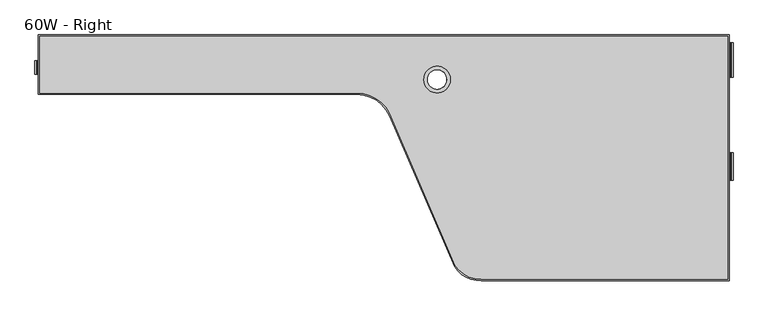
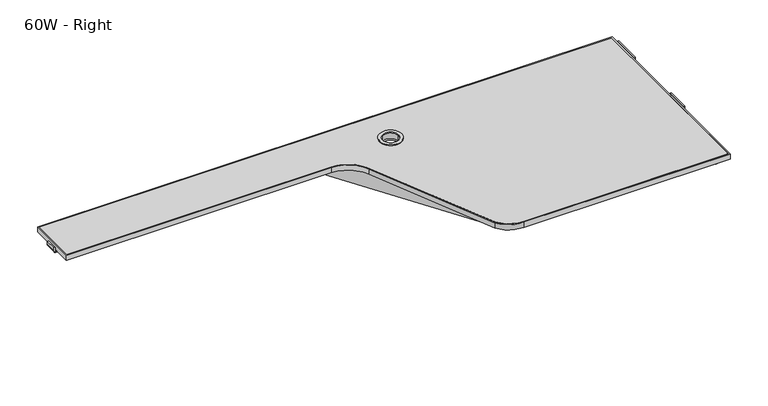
"""IFC4 building model written with IfcOpenShell, lengths in millimetres: furniture geometry, Steelcase Turnstone - Bivi - Table - Dual Top - Upper : 60W - Right."""

from ifc_helpers import new_model, si_unit, point, frame, frame_2d, origin, place, context, project, spatial, polyline, circle_curve, trimmed, segment, composite_curve, outline, extrude, faceted_brep, source, transform, mapped, element, save
from ifc_brep_helpers import plane_surface, cylinder_surface, revolved_surface, advanced_brep


def furniture_60w_right_6b6f8c7d(model_context):
    return source(origin(), model_context, "Body", "SolidModel", [
        faceted_brep([(899.5366315, 798.3804985, 984.3365257), (829.8016381, 798.3804985, 984.3365257), (829.8016381, 798.3804985, 1041.4865257), (899.5366315, 798.3804985, 1041.4865257), (1094.9332275, 353.2724638, 1039.9118156), (1094.9332275, 353.2724638, 1041.4865257), (1074.8232345, 353.2724638, 1041.4865257), (1074.8232345, 353.2724638, 1007.3133509), (1094.9332275, 353.2724638, 1007.3133509), (1094.9332275, 353.2724638, 1008.3955413), (1076.966961, 353.2724638, 1008.3955413), (1076.966961, 353.2724638, 1039.9118156)], [[[0, 1, 2, 3]], [[4, 5, 6, 7, 8, 9, 10, 11]], [[4, 11, 0]], [[11, 10, 0]], [[8, 7, 1, 0]], [[10, 9, 0]], [[9, 8, 0]], [[7, 6, 2, 1]], [[6, 5, 3, 2]], [[5, 4, 0, 3]]]),
        faceted_brep([(1598.4924133, 298.0312383, 1041.4865257), (1598.4924133, 298.0312383, 1040.1793583), (1598.4924133, 309.9526244, 1040.1793583), (1598.4924133, 309.9526244, 1031.5145776), (1598.4924133, 337.4886594, 1010.7646869), (1598.4924133, 353.2724638, 1010.7646869), (1598.4924133, 353.2724638, 1041.4865257), (1077.0049901, 353.2724638, 1041.4865257), (1094.9332275, 313.0049832, 1041.4865257), (1094.9332275, 298.0312383, 1041.4865257), (1077.0049901, 353.2724638, 1010.7646869), (1084.0323926, 337.4886594, 1010.7646869), (1094.9332275, 309.9526244, 1031.5145776), (1094.9332275, 313.0049832, 1029.2144603), (1094.9332275, 309.9526244, 1040.1793583), (1094.9332275, 298.0312383, 1040.1793583)], [[[0, 1, 2, 3, 4, 5, 6]], [[0, 6, 7, 8, 9]], [[6, 5, 10, 7]], [[5, 4, 11, 10]], [[4, 3, 12, 13, 11]], [[3, 2, 14, 12]], [[2, 1, 15, 14]], [[1, 0, 9, 15]], [[8, 13, 12, 14, 15, 9]], [[13, 8, 7, 10, 11]]]),
        extrude(outline(composite_curve([segment(polyline([(1043.0122331, 146.3611724), (1052.5780574, 146.3611724), (1052.5780574, 143.3229857), (1043.4087962, 143.3229857)]), True, "CONTINUOUS"), segment(trimmed(circle_curve(frame_2d((1043.4087962, 148.5250221)), 5.2020364), [point((1043.4087962, 143.3229857))], [point((1038.2067598, 148.5250221))], False, "CARTESIAN"), True, "CONTINUOUS"), segment(polyline([(1038.2067598, 148.5250221), (1038.2067598, 171.0287862), (1041.2445831, 171.0287862), (1041.2445831, 148.1288223)]), True, "CONTINUOUS"), segment(trimmed(circle_curve(frame_2d((1043.0122331, 148.1288223)), 1.7676499), [point((1041.2445831, 148.1288223))], [point((1043.0122331, 146.3611724))], True, "CARTESIAN"), True, "CONTINUOUS")], self_intersect=False)), frame((0.0, 731.0843589, 0.0), z_axis=(0.0, 1.0, 0.0), x_axis=(0.0, 0.0, 1.0)), (0.0, 0.0, 1.0), 28.5750242),
        extrude(outline(composite_curve([segment(polyline([(153.4, 691.0157049), (153.4, 812.4281826), (1620.25, 812.4281826), (1620.25, 294.1411651), (1094.9332275, 294.1411651)]), True, "CONTINUOUS"), segment(trimmed(circle_curve(frame_2d((1094.9332275, 360.8351796)), 66.6940145), [point((1094.9332275, 294.1411651))], [point((1039.5613504, 323.6592897))], False, "CARTESIAN"), True, "CONTINUOUS"), segment(polyline([(1039.5613504, 323.6592897), (899.5366315, 648.623779)]), True, "CONTINUOUS"), segment(trimmed(circle_curve(frame_2d((829.8016381, 612.4624834)), 78.5532215), [point((899.5366315, 648.623779))], [point((829.8016381, 691.0157049))], True, "CARTESIAN"), True, "CONTINUOUS"), segment(polyline([(829.8016381, 691.0157049), (153.4, 691.0157049)]), True, "CONTINUOUS")], self_intersect=False), holes=[composite_curve([segment(trimmed(circle_curve(frame_2d((1000.2079342, 720.0618051)), 20.4182782), [point((979.789656, 720.0618051))], [point((1020.6262125, 720.0618051))], True, "CARTESIAN"), True, "CONTINUOUS"), segment(trimmed(circle_curve(frame_2d((1000.2079342, 720.0618051)), 20.4182782), [point((1020.6262125, 720.0618051))], [point((979.789656, 720.0618051))], True, "CARTESIAN"), True, "CONTINUOUS")], self_intersect=False)]), frame((0.0, 0.0, 1041.4865257), z_axis=(0.0, 0.0, 1.0), x_axis=(1.0, 0.0, 0.0)), (0.0, 0.0, 1.0), 13.9699806),
        advanced_brep(
        [(1598.4924133, 724.9765806, 1033.5003172), (1601.5294373, 724.9765806, 1033.5003172), (1601.5294373, 724.9765806, 1036.2789253), (1603.4572718, 724.9765806, 1038.2067598), (1626.29999, 724.9765806, 1038.2067598), (1631.5020264, 724.9765806, 1043.4087962), (1631.5020264, 724.9765806, 1052.5780574), (1628.4638397, 724.9765806, 1052.5780574), (1628.4638397, 724.9765806, 1043.0122331), (1626.6961898, 724.9765806, 1041.2445831), (1603.7962259, 724.9765806, 1041.2445831), (1598.4924133, 724.9765806, 1035.9407705), (1598.4924133, 564.321009, 1033.5003172), (1601.5294373, 564.321009, 1033.5003172), (1598.4924133, 564.321009, 1035.9407705), (1603.7962259, 564.321009, 1041.2445831), (1626.6961898, 564.321009, 1041.2445831), (1628.4638397, 564.321009, 1043.0122331), (1628.4638397, 564.321009, 1052.5780574), (1631.5020264, 564.321009, 1052.5780574), (1631.5020264, 564.321009, 1043.4087962), (1626.29999, 564.321009, 1038.2067598), (1603.4572718, 564.321009, 1038.2067598), (1601.5294373, 564.321009, 1036.2789253), (1598.4924133, 505.2663324, 1033.5003172), (1601.5294373, 505.2663324, 1033.5003172), (1601.5294373, 505.2663324, 1036.2789253), (1603.4572718, 505.2663324, 1038.2067598), (1626.29999, 505.2663324, 1038.2067598), (1631.5020264, 505.2663324, 1043.4087962), (1631.5020264, 505.2663324, 1052.5780574), (1628.4638397, 505.2663324, 1052.5780574), (1628.4638397, 505.2663324, 1043.0122331), (1626.6961898, 505.2663324, 1041.2445831), (1603.7962259, 505.2663324, 1041.2445831), (1598.4924133, 505.2663324, 1035.9407705), (1598.4924133, 309.4350479, 1033.5003172), (1601.5294373, 309.4350479, 1033.5003172), (1601.5294373, 798.5617693, 1033.5003172), (1598.4924133, 798.5617693, 1033.5003172), (1598.4924133, 798.5617693, 1035.9407705), (1603.7962259, 798.5617693, 1041.2445831), (1626.6961898, 798.5617693, 1041.2445831), (1628.4638397, 798.5617693, 1043.0122331), (1628.4638397, 798.5617693, 1052.5780574), (1631.5020264, 798.5617693, 1052.5780574), (1631.5020264, 798.5617693, 1043.4087962), (1626.29999, 798.5617693, 1038.2067598), (1603.4572718, 798.5617693, 1038.2067598), (1601.5294373, 798.5617693, 1036.2789253), (1598.4924133, 309.4350479, 1026.050419), (1601.5294373, 309.4350479, 1026.050419), (1598.4924133, 330.4740531, 1010.7646869), (1601.5294373, 330.4740531, 1010.7646869), (1601.5294373, 794.9607992, 1010.7646869), (1598.4924133, 794.9607992, 1010.7646869)],
        [
            (0, 1),
            (1, 2),
            (2, 3, circle_curve(frame((1603.4572718, 724.9765806, 1036.2789253), z_axis=(0.0, 1.0, 0.0), x_axis=(1.0, 0.0, 0.0)), 1.9278345)),
            (3, 4),
            (4, 5, circle_curve(frame((1626.29999, 724.9765806, 1043.4087962), z_axis=(0.0, -1.0, 0.0), x_axis=(1.0, 0.0, 0.0)), 5.2020364)),
            (5, 6),
            (6, 7),
            (7, 8),
            (8, 9, circle_curve(frame((1626.6961898, 724.9765806, 1043.0122331), z_axis=(0.0, 1.0, 0.0), x_axis=(1.0, 0.0, 0.0)), 1.7676499)),
            (9, 10),
            (10, 11, circle_curve(frame((1603.7962259, 724.9765806, 1035.9407705), z_axis=(0.0, -1.0, 0.0), x_axis=(1.0, 0.0, 0.0)), 5.3038126)),
            (11, 0),
            (0, 12),
            (12, 13),
            (13, 1),
            (12, 14),
            (14, 15, circle_curve(frame((1603.7962259, 564.321009, 1035.9407705), z_axis=(0.0, 1.0, 0.0), x_axis=(1.0, 0.0, 0.0)), 5.3038126)),
            (15, 16),
            (16, 17, circle_curve(frame((1626.6961898, 564.321009, 1043.0122331), z_axis=(0.0, -1.0, 0.0), x_axis=(1.0, 0.0, 0.0)), 1.7676499)),
            (17, 18),
            (18, 19),
            (19, 20),
            (20, 21, circle_curve(frame((1626.29999, 564.321009, 1043.4087962), z_axis=(0.0, 1.0, 0.0), x_axis=(1.0, 0.0, 0.0)), 5.2020364)),
            (21, 22),
            (22, 23, circle_curve(frame((1603.4572718, 564.321009, 1036.2789253), z_axis=(0.0, -1.0, 0.0), x_axis=(1.0, 0.0, 0.0)), 1.9278345)),
            (23, 13),
            (24, 25),
            (25, 26),
            (26, 27, circle_curve(frame((1603.4572718, 505.2663324, 1036.2789253), z_axis=(0.0, 1.0, 0.0), x_axis=(1.0, 0.0, 0.0)), 1.9278345)),
            (27, 28),
            (28, 29, circle_curve(frame((1626.29999, 505.2663324, 1043.4087962), z_axis=(0.0, -1.0, 0.0), x_axis=(1.0, 0.0, 0.0)), 5.2020364)),
            (29, 30),
            (30, 31),
            (31, 32),
            (32, 33, circle_curve(frame((1626.6961898, 505.2663324, 1043.0122331), z_axis=(0.0, 1.0, 0.0), x_axis=(1.0, 0.0, 0.0)), 1.7676499)),
            (33, 34),
            (34, 35, circle_curve(frame((1603.7962259, 505.2663324, 1035.9407705), z_axis=(0.0, -1.0, 0.0), x_axis=(1.0, 0.0, 0.0)), 5.3038126)),
            (35, 24),
            (24, 36),
            (36, 37),
            (37, 25),
            (38, 39),
            (39, 40),
            (40, 41, circle_curve(frame((1603.7962259, 798.5617693, 1035.9407705), z_axis=(0.0, 1.0, 0.0), x_axis=(1.0, 0.0, 0.0)), 5.3038126)),
            (41, 42),
            (42, 43, circle_curve(frame((1626.6961898, 798.5617693, 1043.0122331), z_axis=(0.0, -1.0, 0.0), x_axis=(1.0, 0.0, 0.0)), 1.7676499)),
            (43, 44),
            (44, 45),
            (45, 46),
            (46, 47, circle_curve(frame((1626.29999, 798.5617693, 1043.4087962), z_axis=(0.0, 1.0, 0.0), x_axis=(1.0, 0.0, 0.0)), 5.2020364)),
            (47, 48),
            (48, 49, circle_curve(frame((1603.4572718, 798.5617693, 1036.2789253), z_axis=(0.0, -1.0, 0.0), x_axis=(1.0, 0.0, 0.0)), 1.9278345)),
            (49, 38),
            (36, 50),
            (50, 51),
            (51, 37),
            (50, 52),
            (52, 53),
            (53, 51),
            (38, 54),
            (54, 55),
            (55, 39),
            (32, 17),
            (16, 33),
            (8, 43),
            (42, 9),
            (15, 34),
            (41, 10),
            (14, 35),
            (40, 11),
            (55, 52),
            (53, 54),
            (49, 2),
            (23, 26),
            (48, 3),
            (22, 27),
            (21, 28),
            (47, 4),
            (20, 29),
            (46, 5),
            (19, 30),
            (45, 6),
            (18, 31),
            (44, 7),
        ],
        [
            plane_surface(frame((-124.7902, 724.9765806, 1074.5657681), z_axis=(0.0, -1.0, 0.0), x_axis=(1.0, 0.0, 0.0))),
            plane_surface(frame((-124.7902, 724.9765806, 1033.5003172), z_axis=(0.0, 0.0, 1.0), x_axis=(1.0, 0.0, 0.0))),
            plane_surface(frame((-124.7902, 564.321009, 1033.5003172), z_axis=(0.0, 1.0, 0.0), x_axis=(1.0, 0.0, 0.0))),
            plane_surface(frame((-124.7902, 505.2663324, 1074.5657681), z_axis=(0.0, -1.0, 0.0), x_axis=(1.0, 0.0, 0.0))),
            plane_surface(frame((-124.7902, 505.2663324, 1033.5003172), z_axis=(0.0, 0.0, 1.0), x_axis=(1.0, 0.0, 0.0))),
            plane_surface(frame((-124.7902, 798.5617693, 1033.5003172), z_axis=(0.0, 1.0, 0.0), x_axis=(1.0, 0.0, 0.0))),
            plane_surface(frame((-124.7902, 309.4350479, 1033.5003172), z_axis=(0.0, -1.0, 0.0), x_axis=(1.0, 0.0, 0.0))),
            plane_surface(frame((-124.7902, 309.4350479, 1026.050419), z_axis=(0.0, -0.5877852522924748, -0.8090169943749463), x_axis=(1.0, 0.0, 0.0))),
            plane_surface(frame((-124.7902, 791.6082574, 989.5975705), z_axis=(0.0, 0.9876883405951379, -0.1564344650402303), x_axis=(1.0, 0.0, 0.0))),
            revolved_surface(polyline([(1628.4638396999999, 564.321009, 1043.0122331), (1628.4638396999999, 505.2663324, 1043.0122331)]), (1626.6961898, 815.2221738, 1043.0122331), (0.0, 1.0, 0.0)),
            revolved_surface(polyline([(1628.4638396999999, 798.5617693, 1043.0122331), (1628.4638396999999, 724.9765806, 1043.0122331)]), (1626.6961898, 815.2221738, 1043.0122331), (0.0, 1.0, 0.0)),
            plane_surface(frame((1626.6961898, 294.1411651, 1041.2445831), z_axis=(0.0, 0.0, 1.0), x_axis=(0.0, 1.0, 0.0))),
            cylinder_surface(frame((1603.7962259, 815.2221738, 1035.9407705), z_axis=(0.0, -1.0, 0.0), x_axis=(1.0, 0.0, 0.0)), 5.3038126),
            plane_surface(frame((1598.4924133, 294.1411651, 1035.9407705), z_axis=(-1.0, 0.0, 0.0), x_axis=(0.0, 1.0, 0.0))),
            plane_surface(frame((1601.5294373, 294.1411651, 1010.7646869), z_axis=(1.0, 0.0, 0.0), x_axis=(0.0, 1.0, 0.0))),
            revolved_surface(polyline([(1605.3851063, 798.5617693, 1036.2789253), (1605.3851063, 724.9765806, 1036.2789253)]), (1603.4572718, 815.2221738, 1036.2789253), (0.0, 1.0, 0.0)),
            revolved_surface(polyline([(1605.3851063, 564.321009, 1036.2789253), (1605.3851063, 505.2663324, 1036.2789253)]), (1603.4572718, 815.2221738, 1036.2789253), (0.0, 1.0, 0.0)),
            plane_surface(frame((1603.4572718, 294.1411651, 1038.2067598), z_axis=(0.0, 0.0, -1.0), x_axis=(0.0, 1.0, 0.0))),
            cylinder_surface(frame((1626.29999, 815.2221738, 1043.4087962), z_axis=(0.0, -1.0, 0.0), x_axis=(1.0, 0.0, 0.0)), 5.2020364),
            plane_surface(frame((1631.5020264, 294.1411651, 1043.4087962), z_axis=(1.0, 0.0, 0.0), x_axis=(0.0, 1.0, 0.0))),
            plane_surface(frame((1631.5020264, 294.1411651, 1052.5780574), z_axis=(0.0, 0.0, 1.0), x_axis=(0.0, 1.0, 0.0))),
            plane_surface(frame((1628.4638397, 294.1411651, 1052.5780574), z_axis=(-1.0, 0.0, 0.0), x_axis=(0.0, 1.0, 0.0))),
            plane_surface(frame((1598.4924133, 294.1411651, 1010.7646869), z_axis=(0.0, 0.0, -1.0), x_axis=(0.0, 1.0, 0.0))),
        ],
        [
            (0, [[1, 2, 3, 4, 5, 6, 7, 8, 9, 10, 11, 12]]),
            (1, [[-1, 13, 14, 15]]),
            (2, [[-14, 16, 17, 18, 19, 20, 21, 22, 23, 24, 25, 26]]),
            (3, [[27, 28, 29, 30, 31, 32, 33, 34, 35, 36, 37, 38]]),
            (4, [[-27, 39, 40, 41]]),
            (5, [[42, 43, 44, 45, 46, 47, 48, 49, 50, 51, 52, 53]]),
            (6, [[-40, 54, 55, 56]]),
            (7, [[-55, 57, 58, 59]]),
            (8, [[-42, 60, 61, 62]]),
            (9, [[63, -19, 64, -35]]),
            (10, [[65, -46, 66, -9]]),
            (11, [[-64, -18, 67, -36]]),
            (11, [[-66, -45, 68, -10]]),
            (12, [[-67, -17, 69, -37]]),
            (12, [[-68, -44, 70, -11]]),
            (13, [[-69, -16, -13, -12, -70, -43, -62, 71, -57, -54, -39, -38]]),
            (14, [[72, -60, -53, 73, -2, -15, -26, 74, -28, -41, -56, -59]]),
            (15, [[-73, -52, 75, -3]]),
            (16, [[-74, -25, 76, -29]]),
            (17, [[-76, -24, 77, -30]]),
            (17, [[-75, -51, 78, -4]]),
            (18, [[-77, -23, 79, -31]]),
            (18, [[-78, -50, 80, -5]]),
            (19, [[-79, -22, 81, -32]]),
            (19, [[-80, -49, 82, -6]]),
            (20, [[-81, -21, 83, -33]]),
            (20, [[-82, -48, 84, -7]]),
            (21, [[-63, -34, -83, -20]]),
            (21, [[-65, -8, -84, -47]]),
            (22, [[-72, -58, -71, -61]]),
        ],
    ),
        extrude(outline(composite_curve([segment(polyline([(1010.7646869, 1620.25), (1010.7646869, 1623.8059845), (1038.2299042, 1623.8059845)]), True, "CONTINUOUS"), segment(trimmed(circle_curve(frame_2d((1038.2299042, 1620.7911551)), 3.0148294), [point((1038.2299042, 1623.8059845))], [point((1041.2445831, 1620.821279))], False, "CARTESIAN"), True, "CONTINUOUS"), segment(polyline([(1041.2445831, 1620.821279), (1041.2445831, 1603.6140454)]), True, "CONTINUOUS"), segment(trimmed(circle_curve(frame_2d((1036.122951, 1603.6140454)), 5.1216321), [point((1041.2445831, 1603.6140454))], [point((1038.2067598, 1598.9354926))], False, "CARTESIAN"), True, "CONTINUOUS"), segment(polyline([(1038.2067598, 1598.9354926), (1038.2067598, 1620.25), (1010.7646869, 1620.25)]), True, "CONTINUOUS")], self_intersect=False)), frame((0.0, 567.5617654, 0.0), z_axis=(0.0, 1.0, 0.0), x_axis=(0.0, 0.0, 1.0)), (0.0, 0.0, 1.0), 154.8611003),
        extrude(outline(composite_curve([segment(polyline([(150.6059845, 688.2217075), (150.6059845, 815.2221738), (1623.8059845, 815.2221738), (1623.8059845, 291.3471738), (1094.9332275, 291.3471738)]), True, "CONTINUOUS"), segment(trimmed(circle_curve(frame_2d((1091.7968658, 355.1460501)), 63.8759217), [point((1094.9332275, 291.3471738))], [point((1037.8058651, 321.0124124))], False, "CARTESIAN"), True, "CONTINUOUS"), segment(polyline([(1037.8058651, 321.0124124), (899.5366315, 641.9028326)]), True, "CONTINUOUS"), segment(trimmed(circle_curve(frame_2d((829.8016381, 612.5678031)), 75.6539045), [point((899.5366315, 641.9028326))], [point((829.8016381, 688.2217075))], True, "CARTESIAN"), True, "CONTINUOUS"), segment(polyline([(829.8016381, 688.2217075), (150.6059845, 688.2217075)]), True, "CONTINUOUS")], self_intersect=False), holes=[composite_curve([segment(polyline([(1620.25, 812.4281826), (153.4, 812.4281826), (153.4, 691.0157049), (829.8016381, 691.0157049)]), True, "CONTINUOUS"), segment(trimmed(circle_curve(frame_2d((829.8016381, 612.4624834)), 78.5532215), [point((829.8016381, 691.0157049))], [point((899.5366315, 648.623779))], False, "CARTESIAN"), True, "CONTINUOUS"), segment(polyline([(899.5366315, 648.623779), (1039.5613504, 323.6592897)]), True, "CONTINUOUS"), segment(trimmed(circle_curve(frame_2d((1094.9332275, 360.8351796)), 66.6940145), [point((1039.5613504, 323.6592897))], [point((1094.9332275, 294.1411651))], True, "CARTESIAN"), True, "CONTINUOUS"), segment(polyline([(1094.9332275, 294.1411651), (1620.25, 294.1411651), (1620.25, 812.4281826)]), True, "CONTINUOUS")], self_intersect=False)]), frame((0.0, 0.0, 1041.4865257), z_axis=(0.0, 0.0, 1.0), x_axis=(1.0, 0.0, 0.0)), (0.0, 0.0, 1.0), 13.9699806),
        extrude(outline(composite_curve([segment(trimmed(circle_curve(frame_2d((1000.6436852, 720.0618051)), 28.3365682), [point((1028.9802533, 720.0618051))], [point((972.307117, 720.0618051))], False, "CARTESIAN"), True, "CONTINUOUS"), segment(trimmed(circle_curve(frame_2d((1000.6436852, 720.0618051)), 28.3365682), [point((972.307117, 720.0618051))], [point((1028.9802533, 720.0618051))], False, "CARTESIAN"), True, "CONTINUOUS")], self_intersect=False), holes=[composite_curve([segment(trimmed(circle_curve(frame_2d((1000.6436852, 720.0618051)), 20.4182782), [point((1021.0619634, 720.0618051))], [point((980.2254069, 720.0618051))], True, "CARTESIAN"), True, "CONTINUOUS"), segment(trimmed(circle_curve(frame_2d((1000.6436852, 720.0618051)), 20.4182782), [point((980.2254069, 720.0618051))], [point((1021.0619634, 720.0618051))], True, "CARTESIAN"), True, "CONTINUOUS")], self_intersect=False)]), frame((0.0, 0.0, 1036.8869459), z_axis=(0.0, 0.0, 1.0), x_axis=(1.0, 0.0, 0.0)), (0.0, 0.0, 1.0), 21.3373179),
    ])


if __name__ == "__main__":
    model = new_model("IFC4")
    model_context = context("Model", 3, world=origin())
    ifc_project = project(units=[si_unit("LENGTHUNIT", "METRE", prefix="MILLI")], contexts=[model_context])
    site = spatial("IfcSite", under=ifc_project)
    building = spatial("IfcBuilding", under=site)
    placement = place(None, origin())
    furniture_60w_right_shape = furniture_60w_right_6b6f8c7d(model_context)
    element("IfcFurniture", 1, ObjectType="Steelcase Turnstone - Bivi - Table - Dual Top - Upper : 60W - Right", at=placement, inside=building, context=model_context, shape_type="MappedRepresentation", body=[
        mapped(furniture_60w_right_shape, transform((0.0, 0.0, 0.0), x_axis=(1.0, 0.0, 0.0), y_axis=(0.0, 1.0, 0.0), z_axis=(0.0, 0.0, 1.0))),
    ])
    save(model, "model.ifc")
